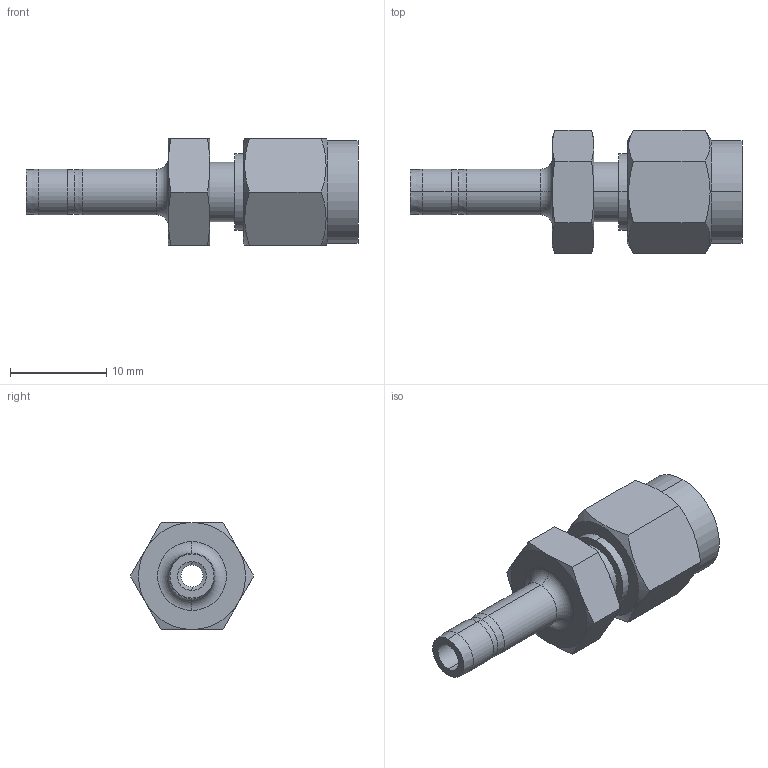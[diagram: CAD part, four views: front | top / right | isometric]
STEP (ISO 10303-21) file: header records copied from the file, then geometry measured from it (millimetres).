
FILE_DESCRIPTION (( 'STEP AP203' ), '1' );
FILE_NAME ('DRE02-03 SS.STEP', '2009-09-08T08:37:00', ( ' ' ), ( '' ), 'SwSTEP 2.0', 'SolidWorks 2008', '' );
FILE_SCHEMA (( 'CONFIG_CONTROL_DESIGN' ));
Length unit declared in the file: millimetre
Products named in the file (1): DRE02-03 SS
Bounding box: 34.5 x 12.83 x 11.11 mm (x, y, z)
Volume: 1819.9 mm3; surface area: 1550 mm2
Topology: 1 solids, 1 shells, 63 faces, 138 edges, 82 vertices
Faces by surface type: cone 24, plane 19, cylinder 18, torus 2
Entity records: 1901 total; most frequent: CARTESIAN_POINT 476, DIRECTION 282, ORIENTED_EDGE 276, EDGE_CURVE 138, AXIS2_PLACEMENT_3D 120, VERTEX_POINT 82, EDGE_LOOP 70, ADVANCED_FACE 63
